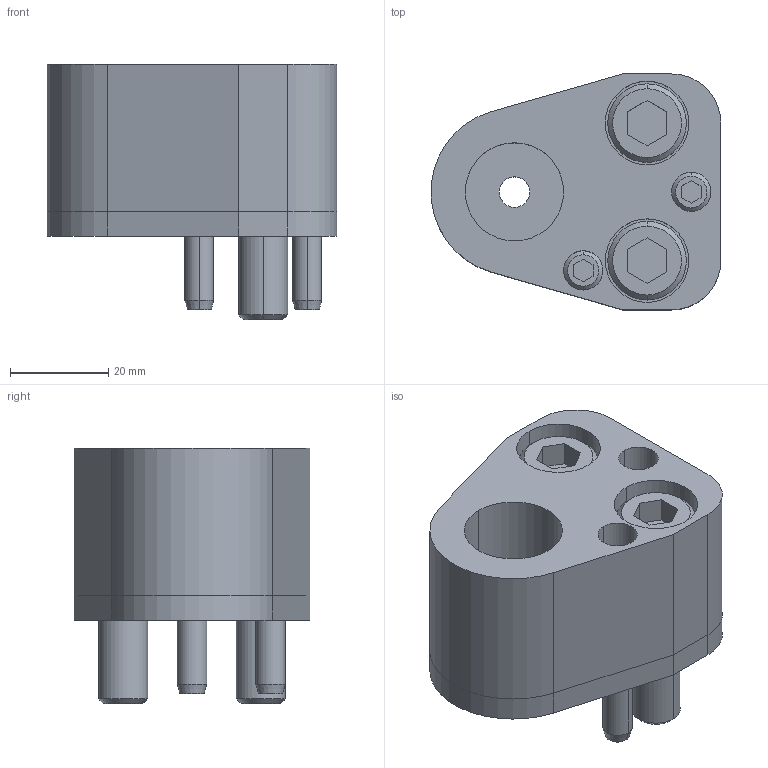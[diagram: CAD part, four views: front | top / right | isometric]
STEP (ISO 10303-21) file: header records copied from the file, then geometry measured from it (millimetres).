
FILE_DESCRIPTION(/* description */ (''),/* implementation_level */ '2;1');
FILE_NAME(/* name */ '3d_hdp-ap20_02760_r00.stp',/* time_stamp */ '2011-01-10T14:14:53+09:00',/* author */ ('MISUMI'),/* organization */ (''),/* preprocessor_version */ 'ST-DEVELOPER v11',/* originating_system */ 'UGS - NX 5.0',/* authorisation */ '');
FILE_SCHEMA (('CONFIG_CONTROL_DESIGN'));
Length unit declared in the file: millimetre
Products named in the file (1): 3d_hdp-ap20_02760_r00
Bounding box: 58.94 x 48 x 52 mm (x, y, z)
Volume: 68992.8 mm3; surface area: 26728.3 mm2
Topology: 8 solids, 8 shells, 155 faces, 346 edges, 222 vertices
Faces by surface type: plane 67, cylinder 62, cone 26
Entity records: 4480 total; most frequent: DIRECTION 804, CARTESIAN_POINT 778, ORIENTED_EDGE 692, EDGE_CURVE 346, AXIS2_PLACEMENT_3D 306, VERTEX_POINT 222, LINE 192, VECTOR 192
